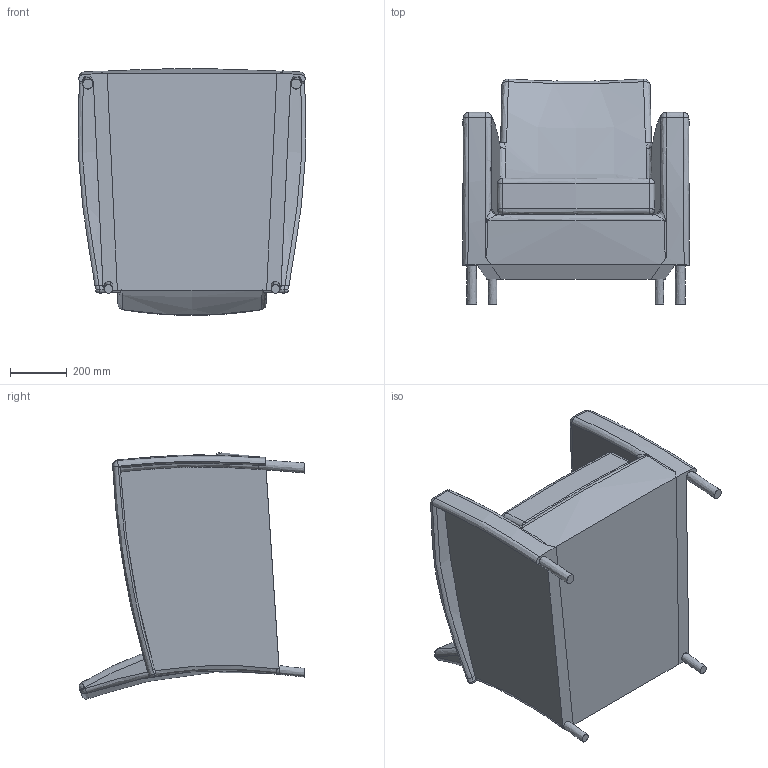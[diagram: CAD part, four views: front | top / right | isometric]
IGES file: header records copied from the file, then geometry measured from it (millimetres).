
Global section: file name: VincentSheppard_DovileLoungeChair; native system: unknown; preprocessor: unknown; author: ict@vincentsheppard.com; organization: unknown; date: 20180515.120334; units: millimetre
Bounding box: 804.59 x 797.81 x 871.65 mm (x, y, z)
Volume: 187316943.7 mm3; surface area: 4270354.3 mm2
Topology: 2 solids, 2 shells, 129 faces, 323 edges, 200 vertices
Faces by surface type: bspline 129
